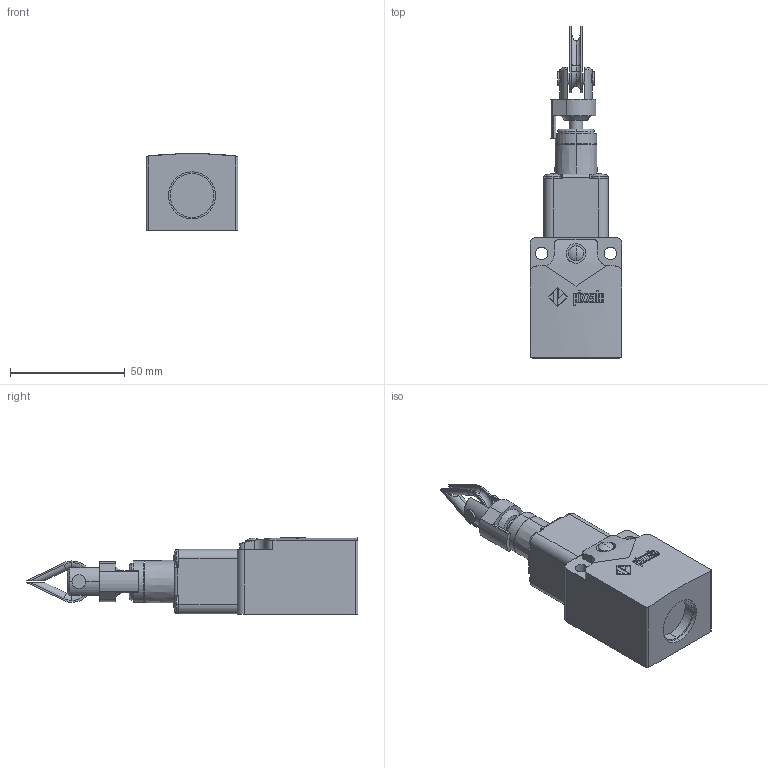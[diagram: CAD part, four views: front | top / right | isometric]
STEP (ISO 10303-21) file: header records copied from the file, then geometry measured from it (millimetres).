
FILE_DESCRIPTION (( 'STEP AP214' ), '1' );
FILE_NAME ('ZF_STEP_FC_x79.step', '2015-05-14T14:14:23', ( 'utente' ), ( 'Microsoft' ), 'SwSTEP 2.0', 'SolidWorks 2014', '' );
FILE_SCHEMA (( 'AUTOMOTIVE_DESIGN' ));
Length unit declared in the file: millimetre
Products named in the file (6): ZF_STEP_VF_T79; Pizzato_Redance_T78-83-84; Pizzato_Tirante_T78_T79; Pizzato_Supporto_T78-T79_T79; Pizzato_Custodia_FC; ZF_STEP_FC_x79
Assembly tree (5 placements, depth 3):
  ZF_STEP_FC_x79
    Pizzato_Custodia_FC
    ZF_STEP_VF_T79
      Pizzato_Supporto_T78-T79_T79
      Pizzato_Tirante_T78_T79
      Pizzato_Redance_T78-83-84
Bounding box: 40 x 144.5 x 33.4 mm (x, y, z)
Volume: 93987.8 mm3; surface area: 22291.3 mm2
Topology: 4 solids, 4 shells, 473 faces, 1223 edges, 810 vertices
Faces by surface type: plane 244, cylinder 101, bspline 97, torus 14, sphere 10, cone 7
Entity records: 19805 total; most frequent: CARTESIAN_POINT 8545, ORIENTED_EDGE 2446, DIRECTION 2002, EDGE_CURVE 1223, VERTEX_POINT 810, VECTOR 694, LINE 694, AXIS2_PLACEMENT_3D 654
